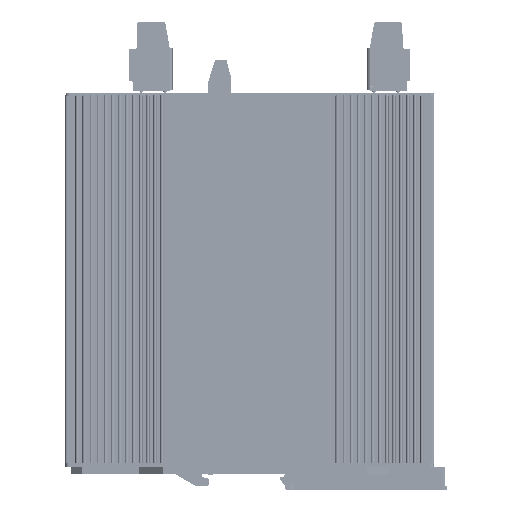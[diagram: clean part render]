
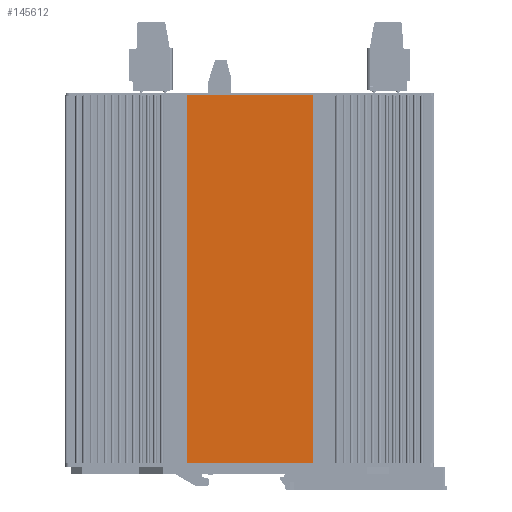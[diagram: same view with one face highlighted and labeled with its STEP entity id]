
A CAD part, left-side view. The second image highlights one B-rep face of the part: STEP entity #145612.
In plain terms, the highlighted planar face has unit normal (-1, 0, 0) as drawn and (0, 1, 0) by its records, which use the part's own axes.
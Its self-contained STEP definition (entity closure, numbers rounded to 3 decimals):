
#17560=FACE_OUTER_BOUND('',#23515,.T.);
#23515=EDGE_LOOP('',(#103934,#103935,#103936,#103937));
#32400=LINE('',#212954,#46616);
#32401=LINE('',#212957,#46617);
#32402=LINE('',#212959,#46618);
#32403=LINE('',#212960,#46619);
#46616=VECTOR('',#168578,10.);
#46617=VECTOR('',#168581,10.);
#46618=VECTOR('',#168582,10.);
#46619=VECTOR('',#168583,10.);
#60650=VERTEX_POINT('',#212950);
#60651=VERTEX_POINT('',#212952);
#60652=VERTEX_POINT('',#212956);
#60653=VERTEX_POINT('',#212958);
#79891=EDGE_CURVE('',#60650,#60651,#32400,.T.);
#79892=EDGE_CURVE('',#60652,#60650,#32401,.T.);
#79893=EDGE_CURVE('',#60653,#60651,#32402,.T.);
#79894=EDGE_CURVE('',#60652,#60653,#32403,.T.);
#103934=ORIENTED_EDGE('',*,*,#79892,.T.);
#103935=ORIENTED_EDGE('',*,*,#79891,.T.);
#103936=ORIENTED_EDGE('',*,*,#79893,.F.);
#103937=ORIENTED_EDGE('',*,*,#79894,.F.);
#141800=PLANE('',#152368);
#145612=ADVANCED_FACE('',(#17560),#141800,.T.);
#152368=AXIS2_PLACEMENT_3D('',#212955,#168579,#168580);
#168578=DIRECTION('',(0.,0.,1.));
#168579=DIRECTION('center_axis',(0.,1.,0.));
#168580=DIRECTION('ref_axis',(-1.,0.,0.));
#168581=DIRECTION('',(-1.,0.,0.));
#168582=DIRECTION('',(-1.,0.,0.));
#168583=DIRECTION('',(0.,0.,1.));
#212950=CARTESIAN_POINT('',(92.67,155.85,0.));
#212952=CARTESIAN_POINT('',(92.67,155.85,156.));
#212954=CARTESIAN_POINT('',(92.67,155.85,0.));
#212955=CARTESIAN_POINT('Origin',(146.17,155.85,0.));
#212956=CARTESIAN_POINT('',(146.17,155.85,0.));
#212957=CARTESIAN_POINT('',(150.52,155.85,0.));
#212958=CARTESIAN_POINT('',(146.17,155.85,156.));
#212959=CARTESIAN_POINT('',(150.52,155.85,156.));
#212960=CARTESIAN_POINT('',(146.17,155.85,0.));
